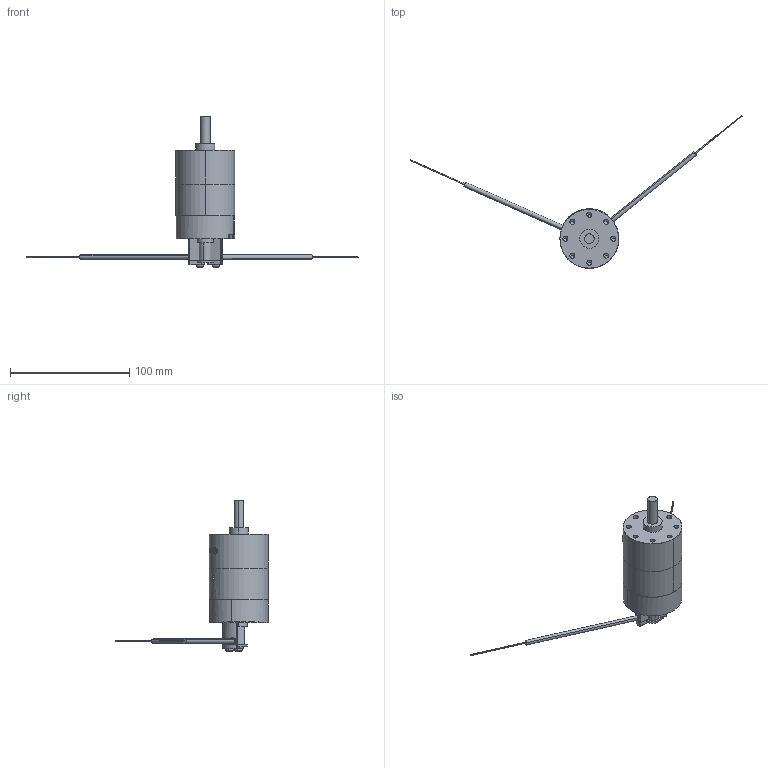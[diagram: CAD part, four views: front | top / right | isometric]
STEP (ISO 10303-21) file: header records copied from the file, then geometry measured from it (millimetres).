
FILE_DESCRIPTION (( 'STEP AP203' ), '1' );
FILE_NAME ('PROA20S-#-#-#-FU.STEP', '2016-02-04T07:03:11', ( 'Sam Lin' ), ( '' ), 'SwSTEP 2.0', 'SolidWorks 2013', '' );
FILE_SCHEMA (( 'CONFIG_CONTROL_DESIGN' ));
Length unit declared in the file: metre
Products named in the file (13): PROA20S-#-#-#-FU; PROA20S-#-# (6); mark-PROA20S; PR0A20S-#-#-#-FR (6); PR0A20S-#-#-#-FR (4); PR0A20S-#-#-#-FR (5); PROA20S-#-# (2); PROA20S-#-#-#-FU (4); PROA20S-#-# (3); PROA20S-#-#-#-FU (6); PROA20S-#-# (1); 鏡射PROA20S-#-# (4); PROA20S-#-# (4)
Assembly tree (16 placements, depth 2):
  PROA20S-#-#-#-FU
    PROA20S-#-# (2)
    PROA20S-#-# (3)
    PROA20S-#-# (1)
    PROA20S-#-# (4)
    PROA20S-#-# (6)
    mark-PROA20S
    PR0A20S-#-#-#-FR (6)
    PR0A20S-#-#-#-FR (4)  x2
    PR0A20S-#-#-#-FR (5)  x2
    PROA20S-#-#-#-FU (4)  x2
    PROA20S-#-#-#-FU (6)  x2
    鏡射PROA20S-#-# (4)
Bounding box: 278.31 x 128.1 x 127.11 mm (x, y, z)
Volume: 123883.2 mm3; surface area: 43701.7 mm2
Topology: 23 solids, 23 shells, 530 faces, 1323 edges, 865 vertices
Faces by surface type: cylinder 248, plane 219, bspline 39, cone 24
Entity records: 19768 total; most frequent: CARTESIAN_POINT 7315, ORIENTED_EDGE 2270, DIRECTION 2268, EDGE_CURVE 1135, AXIS2_PLACEMENT_3D 863, VERTEX_POINT 754, LINE 542, VECTOR 542
